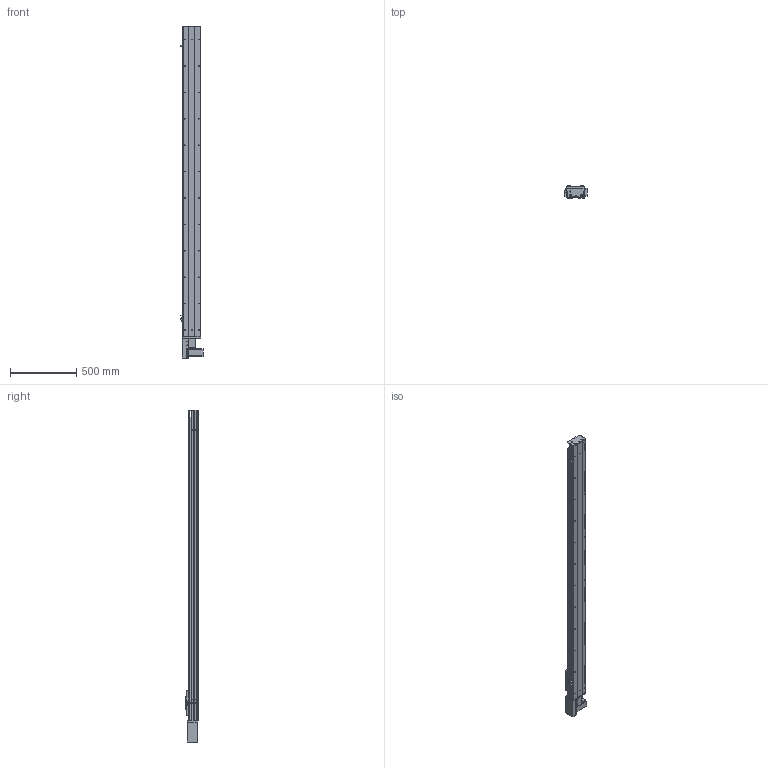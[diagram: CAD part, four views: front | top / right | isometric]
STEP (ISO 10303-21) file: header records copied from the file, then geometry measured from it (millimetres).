
FILE_DESCRIPTION (( 'STEP AP203' ), '1' );
FILE_NAME ('Y135CB-D90-S2050-BR-P400W.STEP', '2020-02-18T02:55:18', ( '微软用户' ), ( '微软中国' ), 'SwSTEP 2.0', 'SolidWorks 2017', '' );
FILE_SCHEMA (( 'CONFIG_CONTROL_DESIGN' ));
Length unit declared in the file: millimetre
Products named in the file (18): Y100-135俋离換覜ん--; Y俋欶BR----; Y135C-陔俋离換覜結え-; 0B-埴倛裔啣; 5C--俋欶; 0B-源倛裔啣; C-雄赽釱--; 0B-萇儂楊擘啣; Y10B--々湍喘謫眊--666; san松下电机400不带刹车----; Y135CB-耜裔; Y135CB-D90-S2050-BR-P400W; 5CB --掛极耜裔啣-; 135CB---遴掛极.-; C-詩湍揤踡え-陔; 35CB---喘謫眊楊擘啣; 135CB--詩湍-CE; Y10B-耜蚾蟀諉啣----
Assembly tree (21 placements, depth 2):
  Y135CB-D90-S2050-BR-P400W
    Y135CB-耜裔
    135CB---遴掛极.-
    35CB---喘謫眊楊擘啣
    Y10B-耜蚾蟀諉啣----
    Y俋欶BR----
    0B-埴倛裔啣
    0B-源倛裔啣
    0B-萇儂楊擘啣
    san松下电机400不带刹车----
    5CB --掛极耜裔啣-  x2
    C-詩湍揤踡え-陔  x2
    135CB--詩湍-CE
    Y100-135俋离換覜ん--  x3
    Y135C-陔俋离換覜結え-
    5C--俋欶
    C-雄赽釱--
    Y10B--々湍喘謫眊--666
Bounding box: 167.5 x 91 x 2514.5 mm (x, y, z)
Volume: 7079672.6 mm3; surface area: 2799443.3 mm2
Topology: 21 solids, 21 shells, 965 faces, 2617 edges, 1734 vertices
Faces by surface type: cylinder 491, plane 458, cone 16
Entity records: 30447 total; most frequent: CARTESIAN_POINT 5128, DIRECTION 5041, ORIENTED_EDGE 4710, EDGE_CURVE 2355, AXIS2_PLACEMENT_3D 1843, VERTEX_POINT 1562, LINE 1355, VECTOR 1355
